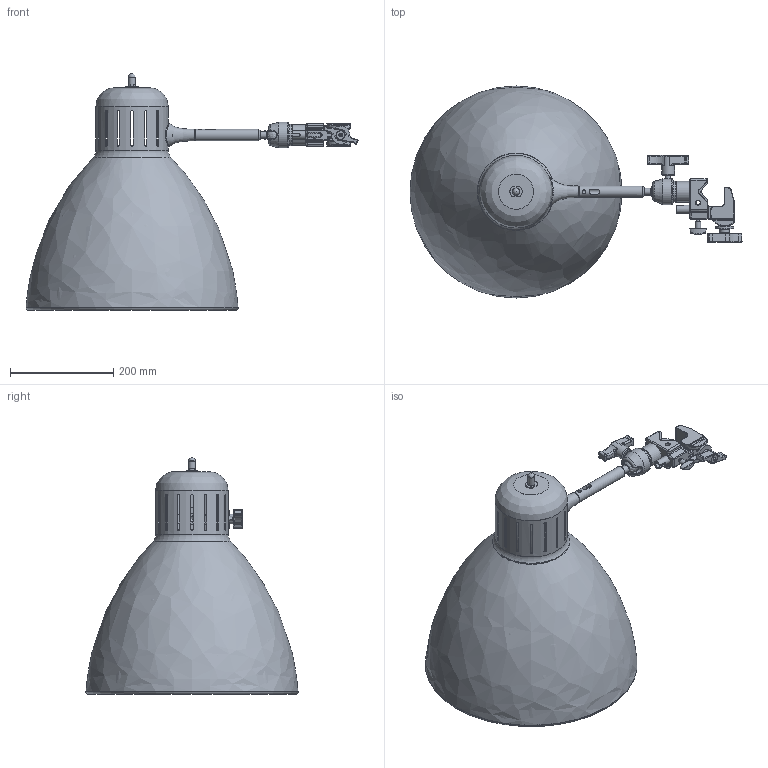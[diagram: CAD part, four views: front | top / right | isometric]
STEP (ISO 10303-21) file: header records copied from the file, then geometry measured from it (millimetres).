
FILE_DESCRIPTION(/* description */ (''),/* implementation_level */ '2;1');
FILE_NAME(/* name */ 'C:\Users\matteo.garelli\Desktop\JJ BIG - GRIP INDOOR - OUTDOOR 3D.stp',/* time_stamp */ '2021-05-11T15:58:58+02:00',/* author */ ('matteo.garelli'),/* organization */ (''),/* preprocessor_version */ 'ST-DEVELOPER v18.1',/* originating_system */ 'Autodesk Inventor 2020',/* authorisation */ '');
FILE_SCHEMA (('AUTOMOTIVE_DESIGN { 1 0 10303 214 3 1 1 }'));
Products named in the file (1): JJ BIG - GRIP INDOOR - OUTDOOR 3D
Bounding box: 641.78 x 410 x 457.25 mm (x, y, z)
Volume: 964767.9 mm3; surface area: 928981.1 mm2
Topology: 4 solids, 11 shells, 1256 faces, 3289 edges, 2082 vertices
Faces by surface type: cylinder 469, plane 452, bspline 137, torus 95, cone 73, sphere 30
Full cylindrical faces by diameter (mm): 4.134 x2, 4.2 x2, 4.8 x1, 4.917 x2, 5 x2, 6 x5, 6.5 x2, 6.647 x3, 6.8 x2, 7 x1, 8 x4, 8.2 x2, 8.4 x1, 8.5 x4, 8.7 x2, 8.917 x1, 9 x3, 10 x5, 10.8 x1, 11 x1, 11.917 x1, 12 x3, 12.6 x1, 13 x3, 13.8 x1, 14 x5, 14.3 x1, 15.5 x1, 15.55 x1, 15.8 x2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
Entity records: 71192 total; most frequent: CARTESIAN_POINT 40703, ORIENTED_EDGE 6490, DIRECTION 6120, EDGE_CURVE 3245, AXIS2_PLACEMENT_3D 2340, VERTEX_POINT 2086, LINE 1440, VECTOR 1440
